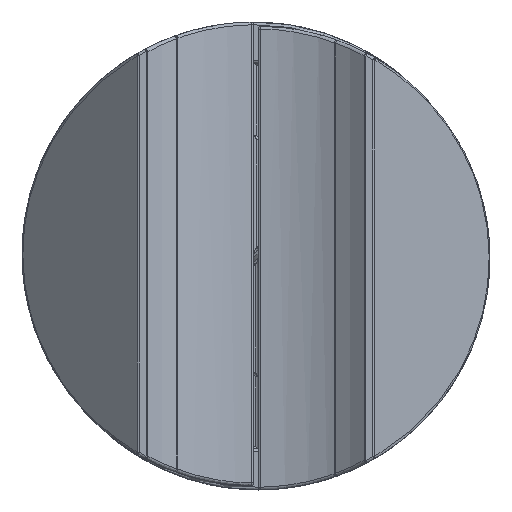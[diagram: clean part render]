
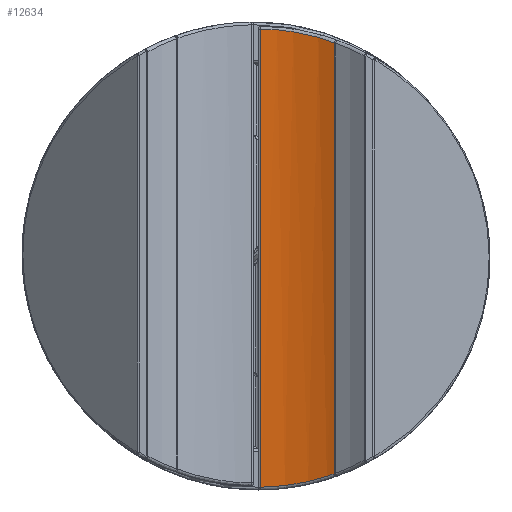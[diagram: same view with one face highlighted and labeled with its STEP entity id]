
A CAD part, front view. The second image highlights one B-rep face of the part: STEP entity #12634.
In plain terms, the highlighted cylindrical face has radius 14 mm (diameter 28 mm), a partial arc.
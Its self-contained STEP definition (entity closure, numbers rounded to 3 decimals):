
#426 = CARTESIAN_POINT ( 'NONE',  ( -8.495, -4.261, -10.938 ) ) ;
#427 = CARTESIAN_POINT ( 'NONE',  ( -9.913, 15.462, 15.263 ) ) ;
#435 = CARTESIAN_POINT ( 'NONE',  ( -8.408, -8.634, -16.866 ) ) ;
#436 = CARTESIAN_POINT ( 'NONE',  ( -8.435, -3.899, -11.348 ) ) ;
#437 = DIRECTION ( 'NONE',  ( 0., -0.707, -0.707 ) ) ;
#438 = CARTESIAN_POINT ( 'NONE',  ( -9.684, 15.916, 15.053 ) ) ;
#439 = CARTESIAN_POINT ( 'NONE',  ( -8.408, -3.513, -11.744 ) ) ;
#440 = CARTESIAN_POINT ( 'NONE',  ( -8.677, -4.937, -10.089 ) ) ;
#441 = CARTESIAN_POINT ( 'NONE',  ( -8.8, -5.253, -9.648 ) ) ;
#442 = CARTESIAN_POINT ( 'NONE',  ( -9.252, -6.114, -8.318 ) ) ;
#443 = CARTESIAN_POINT ( 'NONE',  ( -9.661, -6.577, -7.416 ) ) ;
#444 = CARTESIAN_POINT ( 'NONE',  ( -10.167, -6.949, -6.506 ) ) ;
#446 = CARTESIAN_POINT ( 'NONE',  ( -10.167, 15.006, 15.449 ) ) ;
#448 = CARTESIAN_POINT ( 'NONE',  ( -9.275, 16.824, 14.581 ) ) ;
#449 = CARTESIAN_POINT ( 'NONE',  ( -9.095, 17.279, 14.316 ) ) ;
#450 = CARTESIAN_POINT ( 'NONE',  ( -8.645, 18.608, 13.454 ) ) ;
#451 = CARTESIAN_POINT ( 'NONE',  ( -8.463, 19.452, 12.787 ) ) ;
#452 = CARTESIAN_POINT ( 'NONE',  ( -8.408, 20.244, 12.013 ) ) ;
#1810 = CARTESIAN_POINT ( 'NONE',  ( -10.167, -6.949, -6.506 ) ) ;
#1823 = CARTESIAN_POINT ( 'NONE',  ( -10.167, 15.006, 15.449 ) ) ;
#2347 = AXIS2_PLACEMENT_3D ( 'NONE', #10013, #10008, #10010 ) ;
#3167 = LINE ( 'NONE', #11352, #3168 ) ;
#3168 = VECTOR ( 'NONE', #11353, 1000. ) ;
#4705 = EDGE_LOOP ( 'NONE', ( #6483, #6484, #6485, #6486 ) ) ;
#5768 = CARTESIAN_POINT ( 'NONE',  ( -8.408, 20.244, 12.013 ) ) ;
#5794 = CARTESIAN_POINT ( 'NONE',  ( -8.408, -3.513, -11.744 ) ) ;
#5871 = EDGE_CURVE ( 'NONE', #8254, #8306, #12759, .T. ) ;
#5872 = EDGE_CURVE ( 'NONE', #8306, #6418, #13152, .T. ) ;
#5873 = EDGE_CURVE ( 'NONE', #6885, #8254, #13151, .T. ) ;
#6418 = VERTEX_POINT ( 'NONE', #1810 ) ;
#6483 = ORIENTED_EDGE ( 'NONE', *, *, #5871, .T. ) ;
#6484 = ORIENTED_EDGE ( 'NONE', *, *, #5872, .T. ) ;
#6485 = ORIENTED_EDGE ( 'NONE', *, *, #7593, .T. ) ;
#6486 = ORIENTED_EDGE ( 'NONE', *, *, #5873, .T. ) ;
#6885 = VERTEX_POINT ( 'NONE', #1823 ) ;
#7593 = EDGE_CURVE ( 'NONE', #6418, #6885, #3167, .T. ) ;
#8254 = VERTEX_POINT ( 'NONE', #5768 ) ;
#8306 = VERTEX_POINT ( 'NONE', #5794 ) ;
#10008 = DIRECTION ( 'NONE',  ( 0., 0.707, 0.707 ) ) ;
#10010 = DIRECTION ( 'NONE',  ( 0., -0.707, 0.707 ) ) ;
#10013 = CARTESIAN_POINT ( 'NONE',  ( -22.391, -8.146, -17.354 ) ) ;
#11352 = CARTESIAN_POINT ( 'NONE',  ( -10.167, -12.971, -12.529 ) ) ;
#11353 = DIRECTION ( 'NONE',  ( 0., 0.707, 0.707 ) ) ;
#11658 = FACE_OUTER_BOUND ( 'NONE', #4705, .T. ) ;
#11665 = CYLINDRICAL_SURFACE ( 'NONE', #2347, 14. ) ;
#12634 = ADVANCED_FACE ( 'NONE', ( #11658 ), #11665, .F. ) ;
#12759 = LINE ( 'NONE', #435, #12762 ) ;
#12762 = VECTOR ( 'NONE', #437, 1000. ) ;
#13151 = B_SPLINE_CURVE_WITH_KNOTS ( 'NONE', 3,
 ( #446, #427, #438, #448, #449, #450, #451, #452 ),
 .UNSPECIFIED., .F., .F.,
 ( 4, 2, 2, 4 ),
 ( 0., 0.002, 0.003, 0.007 ),
 .UNSPECIFIED. ) ;
#13152 = B_SPLINE_CURVE_WITH_KNOTS ( 'NONE', 3,
 ( #439, #436, #426, #440, #441, #442, #443, #444 ),
 .UNSPECIFIED., .F., .F.,
 ( 4, 2, 2, 4 ),
 ( 0., 0.002, 0.003, 0.007 ),
 .UNSPECIFIED. ) ;
